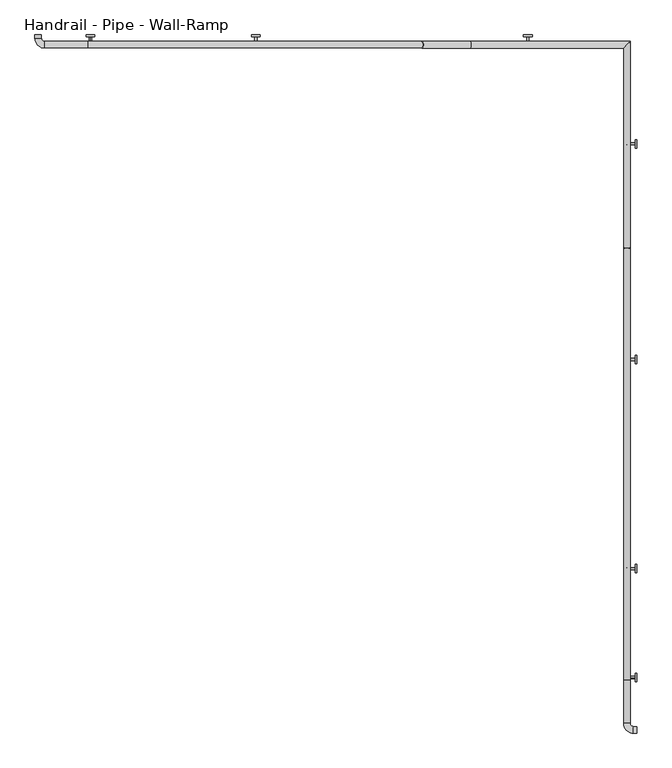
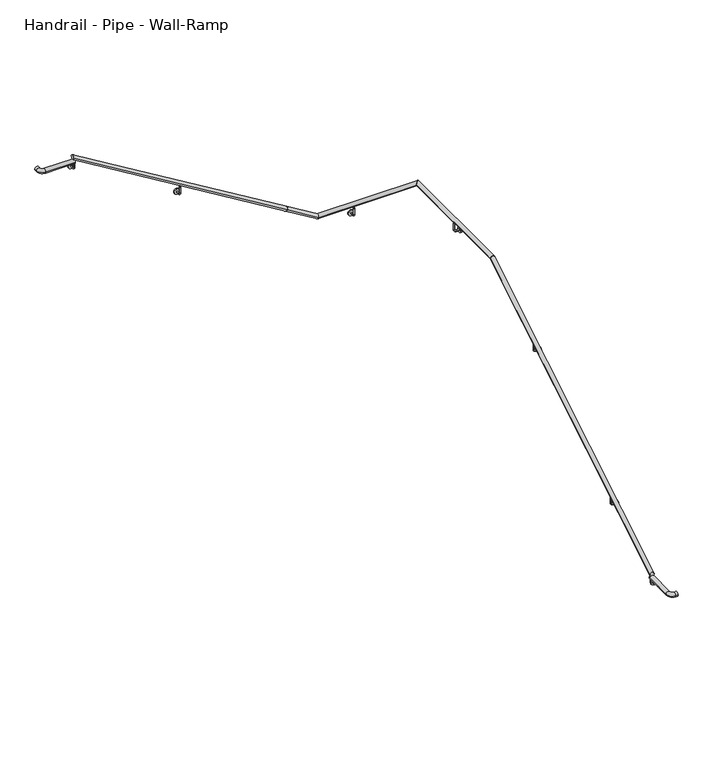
"""IFC4 building model written with IfcOpenShell, lengths in millimetres: railing geometry, Handrail - Pipe - Wall-Ramp."""

from ifc_helpers import new_model, si_unit, point, frame, frame_2d, origin, place, context, project, spatial, circle_curve, ellipse_curve, trimmed, segment, composite_curve, outline, extrude, source, transform, mapped, element, save
from ifc_brep_helpers import plane_surface, cylinder_surface, revolved_surface, advanced_brep


def handrail_pipe_wall_ramp_dae7b1af(model_context):
    return source(origin(), model_context, "Body", "SolidModel", [
        advanced_brep(
        [(7766.9853665, -3496.9167382, 1061.4577857), (7805.0853665, -3496.9167382, 1061.4577857), (7766.9853665, -976.9945847, 2588.6833333), (7805.0853665, -976.9945847, 2588.6833333)],
        [
            (0, 1, ellipse_curve(frame((7786.0353665, -3496.9167382, 1061.4577857), z_axis=(0.0, -1.0, 0.0), x_axis=(0.0, 0.0, -1.0)), 22.2755476, 19.05)),
            (1, 0, ellipse_curve(frame((7786.0353665, -3496.9167382, 1061.4577857), z_axis=(0.0, -1.0, 0.0), x_axis=(0.0, 0.0, -1.0)), 22.2755476, 19.05)),
            (2, 3, ellipse_curve(frame((7786.0353665, -976.9945847, 2588.6833333), z_axis=(0.0, 0.9631193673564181, 0.2690744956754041), x_axis=(0.0, 0.2690744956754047, -0.9631193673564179)), 19.7794797, 19.05)),
            (3, 2, ellipse_curve(frame((7786.0353665, -976.9945847, 2588.6833333), z_axis=(0.0, 0.9631193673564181, 0.2690744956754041), x_axis=(0.0, 0.2690744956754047, -0.9631193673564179)), 19.7794797, 19.05)),
            (0, 2),
            (3, 1),
        ],
        [
            plane_surface(frame((7786.0353665, -3496.9167382, 1083.7333333), z_axis=(0.0, -1.0, 0.0), x_axis=(0.0, 0.0, 1.0))),
            plane_surface(frame((7786.0353665, -982.3167382, 2607.7333333), z_axis=(0.0, 0.9631193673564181, 0.2690744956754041), x_axis=(1.0, 0.0, 0.0))),
            cylinder_surface(frame((7786.0353665, -3487.0430905, 1067.4418146), z_axis=(0.0, -0.8551978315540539, -0.5183017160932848), x_axis=(1.0, 0.0, 0.0)), 19.05),
        ],
        [
            (0, [[1, 2]]),
            (1, [[3, 4]]),
            (2, [[-1, 5, -4, 6]]),
            (2, [[-2, -6, -3, -5]]),
        ],
    ),
        advanced_brep(
        [(7766.9853665, -976.9945847, 2588.6833333), (7805.0853665, -976.9945847, 2588.6833333), (7766.9853665, 186.0832618, 2588.6833333), (7805.0853665, 224.1832618, 2588.6833333)],
        [
            (0, 1, ellipse_curve(frame((7786.0353665, -976.9945847, 2588.6833333), z_axis=(0.0, -0.9631193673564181, -0.2690744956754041), x_axis=(0.0, -0.26907449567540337, 0.9631193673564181)), 19.7794797, 19.05)),
            (1, 0, ellipse_curve(frame((7786.0353665, -976.9945847, 2588.6833333), z_axis=(0.0, -0.9631193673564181, -0.2690744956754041), x_axis=(0.0, -0.26907449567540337, 0.9631193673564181)), 19.7794797, 19.05)),
            (2, 3, ellipse_curve(frame((7786.0353665, 205.1332618, 2588.6833333), z_axis=(-0.7071067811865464, 0.7071067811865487, 0.0), x_axis=(-0.7071067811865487, -0.7071067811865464, 0.0)), 26.9407684, 19.05)),
            (3, 2, ellipse_curve(frame((7786.0353665, 205.1332618, 2588.6833333), z_axis=(-0.7071067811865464, 0.7071067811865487, 0.0), x_axis=(-0.7071067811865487, -0.7071067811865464, 0.0)), 26.9407684, 19.05)),
            (0, 2),
            (3, 1),
        ],
        [
            plane_surface(frame((7786.0353665, -982.3167382, 2607.7333333), z_axis=(0.0, -0.9631193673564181, -0.2690744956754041), x_axis=(1.0, 0.0, 0.0))),
            plane_surface(frame((7786.0353665, 205.1332618, 2607.7333333), z_axis=(-0.7071067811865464, 0.7071067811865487, 0.0), x_axis=(0.7071067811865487, 0.7071067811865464, 0.0))),
            cylinder_surface(frame((7786.0353665, -982.3167382, 2588.6833333), z_axis=(0.0, -1.0, 0.0), x_axis=(1.0, 0.0, 0.0)), 19.05),
        ],
        [
            (0, [[1, 2]]),
            (1, [[3, 4]]),
            (2, [[-1, 5, -4, 6]]),
            (2, [[-2, -6, -3, -5]]),
        ],
    ),
        advanced_brep(
        [(7766.9853665, 186.0832618, 2588.6833333), (7805.0853665, 224.1832618, 2588.6833333), (6872.6632129, 186.0832618, 2588.6833333), (6872.6632129, 224.1832618, 2588.6833333), (6588.7117188, 186.0832618, 2760.775148), (6588.7117188, 224.1832618, 2760.775148)],
        [
            (0, 1, ellipse_curve(frame((7786.0353665, 205.1332618, 2588.6833333), z_axis=(0.7071067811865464, -0.7071067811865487, 0.0), x_axis=(0.7071067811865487, 0.7071067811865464, 0.0)), 26.9407684, 19.05)),
            (1, 0, ellipse_curve(frame((7786.0353665, 205.1332618, 2588.6833333), z_axis=(0.7071067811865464, -0.7071067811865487, 0.0), x_axis=(0.7071067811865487, 0.7071067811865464, 0.0)), 26.9407684, 19.05)),
            (0, 2),
            (2, 3, ellipse_curve(frame((6872.6632129, 205.1332618, 2588.6833333), z_axis=(0.9631193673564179, 0.0, -0.2690744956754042), x_axis=(0.26907449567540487, 0.0, 0.9631193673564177)), 19.7794797, 19.05)),
            (3, 1),
            (3, 2, ellipse_curve(frame((6872.6632129, 205.1332618, 2588.6833333), z_axis=(0.9631193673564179, 0.0, -0.2690744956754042), x_axis=(0.26907449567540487, 0.0, 0.9631193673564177)), 19.7794797, 19.05)),
            (4, 5, circle_curve(frame((6588.7117188, 205.1332618, 2760.775148), z_axis=(-0.8551978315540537, 0.0, 0.5183017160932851), x_axis=(0.0, 1.0, 0.0)), 19.05)),
            (5, 4, circle_curve(frame((6588.7117188, 205.1332618, 2760.775148), z_axis=(-0.8551978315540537, 0.0, 0.5183017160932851), x_axis=(0.0, 1.0, 0.0)), 19.05)),
            (2, 4),
            (5, 3),
        ],
        [
            plane_surface(frame((7786.0353665, 205.1332618, 2607.7333333), z_axis=(0.7071067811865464, -0.7071067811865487, 0.0), x_axis=(0.7071067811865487, 0.7071067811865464, 0.0))),
            cylinder_surface(frame((7786.0353665, 205.1332618, 2588.6833333), z_axis=(1.0, 0.0, 0.0), x_axis=(0.0, 1.0, 0.0)), 19.05),
            plane_surface(frame((6598.5853665, 205.1332618, 2777.0666667), z_axis=(-0.8551978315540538, 0.0, 0.5183017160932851), x_axis=(0.5183017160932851, 0.0, 0.8551978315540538))),
            cylinder_surface(frame((6868.1117188, 205.1332618, 2591.4418146), z_axis=(0.8551978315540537, 0.0, -0.5183017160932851), x_axis=(0.0, 1.0, 0.0)), 19.05),
        ],
        [
            (0, [[1, 2]]),
            (1, [[-1, 3, 4, 5]]),
            (1, [[-2, -5, 6, -3]]),
            (2, [[7, 8]]),
            (3, [[-4, 9, -8, 10]]),
            (3, [[-6, -10, -7, -9]]),
        ],
    ),
        advanced_brep(
        [(6588.7117188, 186.0832618, 2760.775148), (6588.7117188, 224.1832618, 2760.775148), (4642.7853665, 186.0832618, 3940.1244524), (4642.7853665, 224.1832618, 3940.1244524)],
        [
            (0, 1, circle_curve(frame((6588.7117188, 205.1332618, 2760.775148), z_axis=(0.8551978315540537, 0.0, -0.5183017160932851), x_axis=(0.0, 1.0, 0.0)), 19.05)),
            (1, 0, circle_curve(frame((6588.7117188, 205.1332618, 2760.775148), z_axis=(0.8551978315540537, 0.0, -0.5183017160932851), x_axis=(0.0, 1.0, 0.0)), 19.05)),
            (2, 3, ellipse_curve(frame((4642.7853665, 205.1332618, 3940.1244524), z_axis=(-1.0, 0.0, 0.0), x_axis=(0.0, 0.0, -1.0)), 22.2755476, 19.05)),
            (3, 2, ellipse_curve(frame((4642.7853665, 205.1332618, 3940.1244524), z_axis=(-1.0, 0.0, 0.0), x_axis=(0.0, 0.0, -1.0)), 22.2755476, 19.05)),
            (0, 2),
            (3, 1),
        ],
        [
            plane_surface(frame((6598.5853665, 205.1332618, 2777.0666667), z_axis=(0.8551978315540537, 0.0, -0.5183017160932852), x_axis=(0.5183017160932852, 0.0, 0.8551978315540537))),
            plane_surface(frame((4642.7853665, 205.1332618, 3962.4), z_axis=(-1.0, 0.0, 0.0), x_axis=(0.0, -1.0, 0.0))),
            cylinder_surface(frame((6588.7117188, 205.1332618, 2760.775148), z_axis=(0.8551978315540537, 0.0, -0.5183017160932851), x_axis=(0.0, 1.0, 0.0)), 19.05),
        ],
        [
            (0, [[1, 2]]),
            (1, [[3, 4]]),
            (2, [[-1, 5, -4, 6]]),
            (2, [[-2, -6, -3, -5]]),
        ],
    ),
        advanced_brep(
        [(5627.0353665, 205.1332618, 3312.5833333), (5614.3353665, 205.1332618, 3312.5833333), (5627.0353665, 205.1332618, 3255.4333333), (5614.3353665, 205.1332618, 3255.4333333), (5614.3353665, 224.1832618, 3236.3833333), (5627.0353665, 224.1832618, 3236.3833333), (5627.0353665, 252.7582618, 3236.3833333), (5614.3353665, 252.7582618, 3236.3833333)],
        [
            (0, 1, circle_curve(frame((5620.6853665, 205.1332618, 3312.5833333), z_axis=(0.0, 0.0, 1.0), x_axis=(-1.0, 0.0, 0.0)), 6.35)),
            (1, 0, circle_curve(frame((5620.6853665, 205.1332618, 3312.5833333), z_axis=(0.0, 0.0, 1.0), x_axis=(-1.0, 0.0, 0.0)), 6.35)),
            (0, 2),
            (2, 3, circle_curve(frame((5620.6853665, 205.1332618, 3255.4333333), z_axis=(0.0, 0.0, 1.0), x_axis=(-1.0, 0.0, 0.0)), 6.35)),
            (3, 1),
            (3, 2, circle_curve(frame((5620.6853665, 205.1332618, 3255.4333333), z_axis=(0.0, 0.0, 1.0), x_axis=(-1.0, 0.0, 0.0)), 6.35)),
            (4, 3, circle_curve(frame((5614.3353665, 224.1832618, 3255.4333333), z_axis=(-1.0, 0.0, 0.0), x_axis=(0.0, -1.0, 0.0)), 19.05)),
            (2, 5, circle_curve(frame((5627.0353665, 224.1832618, 3255.4333333), z_axis=(1.0, 0.0, 0.0), x_axis=(0.0, -1.0, 0.0)), 19.05)),
            (5, 4, circle_curve(frame((5620.6853665, 224.1832618, 3236.3833333), z_axis=(0.0, -1.0, 0.0), x_axis=(-1.0, 0.0, 0.0)), 6.35)),
            (4, 5, circle_curve(frame((5620.6853665, 224.1832618, 3236.3833333), z_axis=(0.0, -1.0, 0.0), x_axis=(-1.0, 0.0, 0.0)), 6.35)),
            (6, 7, circle_curve(frame((5620.6853665, 252.7582618, 3236.3833333), z_axis=(0.0, 1.0, 0.0), x_axis=(-1.0, 0.0, 0.0)), 6.35)),
            (7, 6, circle_curve(frame((5620.6853665, 252.7582618, 3236.3833333), z_axis=(0.0, 1.0, 0.0), x_axis=(-1.0, 0.0, 0.0)), 6.35)),
            (5, 6),
            (7, 4),
        ],
        [
            plane_surface(frame((5614.3353665, 205.1332618, 3312.5833333), z_axis=(0.0, 0.0, 1.0), x_axis=(0.0, 1.0, 0.0))),
            cylinder_surface(frame((5620.6853665, 205.1332618, 3312.5833333), z_axis=(0.0, 0.0, 1.0), x_axis=(-1.0, 0.0, 0.0)), 6.35),
            revolved_surface(trimmed(ellipse_curve(frame((5620.6853665, 205.1332618, 3255.4333333), z_axis=(0.0, 0.0, 1.0), x_axis=(-1.0, 0.0, 0.0)), 6.35, 6.35), [point((5627.0353665, 205.1332618, 3255.4333333))], [point((5614.3353665, 205.1332618, 3255.4333333))], True, "CARTESIAN"), (5620.6853665, 224.1832618, 3255.4333333), (1.0, 0.0, 0.0)),
            revolved_surface(trimmed(ellipse_curve(frame((5620.6853665, 205.1332618, 3255.4333333), z_axis=(0.0, 0.0, 1.0), x_axis=(-1.0, 0.0, 0.0)), 6.35, 6.35), [point((5614.3353665, 205.1332618, 3255.4333333))], [point((5627.0353665, 205.1332618, 3255.4333333))], True, "CARTESIAN"), (5620.6853665, 224.1832618, 3255.4333333), (1.0, 0.0, 0.0)),
            plane_surface(frame((5620.6853665, 252.7582618, 3230.0333333), z_axis=(0.0, 1.0, 0.0), x_axis=(-1.0, 0.0, 0.0))),
            cylinder_surface(frame((5620.6853665, 224.1832618, 3236.3833333), z_axis=(0.0, -1.0, 0.0), x_axis=(-1.0, 0.0, 0.0)), 6.35),
        ],
        [
            (0, [[1, 2]]),
            (1, [[-1, 3, 4, 5]]),
            (1, [[-2, -5, 6, -3]]),
            (2, [[7, -4, 8, 9]]),
            (3, [[-8, -6, -7, 10]]),
            (4, [[11, 12]]),
            (5, [[-9, 13, -12, 14]]),
            (5, [[-10, -14, -11, -13]]),
        ],
    ),
        extrude(outline(composite_curve([segment(trimmed(circle_curve(frame_2d((3236.3833333, 5620.6853665)), 25.4), [point((3236.3833333, 5595.2853665))], [point((3236.3833333, 5646.0853665))], False, "CARTESIAN"), True, "CONTINUOUS"), segment(trimmed(circle_curve(frame_2d((3236.3833333, 5620.6853665)), 25.4), [point((3236.3833333, 5646.0853665))], [point((3236.3833333, 5595.2853665))], False, "CARTESIAN"), True, "CONTINUOUS")], self_intersect=False)), frame((0.0, 252.7582618, 0.0), z_axis=(0.0, 1.0, 0.0), x_axis=(0.0, 0.0, 1.0)), (0.0, 0.0, 1.0), 9.525),
        advanced_brep(
        [(7214.5353665, 205.1332618, 2550.5833333), (7201.8353665, 205.1332618, 2550.5833333), (7214.5353665, 205.1332618, 2493.4333333), (7201.8353665, 205.1332618, 2493.4333333), (7201.8353665, 224.1832618, 2474.3833333), (7214.5353665, 224.1832618, 2474.3833333), (7214.5353665, 252.7582618, 2474.3833333), (7201.8353665, 252.7582618, 2474.3833333)],
        [
            (0, 1, circle_curve(frame((7208.1853665, 205.1332618, 2550.5833333), z_axis=(0.0, 0.0, 1.0), x_axis=(-1.0, 0.0, 0.0)), 6.35)),
            (1, 0, circle_curve(frame((7208.1853665, 205.1332618, 2550.5833333), z_axis=(0.0, 0.0, 1.0), x_axis=(-1.0, 0.0, 0.0)), 6.35)),
            (0, 2),
            (2, 3, circle_curve(frame((7208.1853665, 205.1332618, 2493.4333333), z_axis=(0.0, 0.0, 1.0), x_axis=(-1.0, 0.0, 0.0)), 6.35)),
            (3, 1),
            (3, 2, circle_curve(frame((7208.1853665, 205.1332618, 2493.4333333), z_axis=(0.0, 0.0, 1.0), x_axis=(-1.0, 0.0, 0.0)), 6.35)),
            (4, 3, circle_curve(frame((7201.8353665, 224.1832618, 2493.4333333), z_axis=(-1.0, 0.0, 0.0), x_axis=(0.0, -1.0, 0.0)), 19.05)),
            (2, 5, circle_curve(frame((7214.5353665, 224.1832618, 2493.4333333), z_axis=(1.0, 0.0, 0.0), x_axis=(0.0, -1.0, 0.0)), 19.05)),
            (5, 4, circle_curve(frame((7208.1853665, 224.1832618, 2474.3833333), z_axis=(0.0, -1.0, 0.0), x_axis=(-1.0, 0.0, 0.0)), 6.35)),
            (4, 5, circle_curve(frame((7208.1853665, 224.1832618, 2474.3833333), z_axis=(0.0, -1.0, 0.0), x_axis=(-1.0, 0.0, 0.0)), 6.35)),
            (6, 7, circle_curve(frame((7208.1853665, 252.7582618, 2474.3833333), z_axis=(0.0, 1.0, 0.0), x_axis=(-1.0, 0.0, 0.0)), 6.35)),
            (7, 6, circle_curve(frame((7208.1853665, 252.7582618, 2474.3833333), z_axis=(0.0, 1.0, 0.0), x_axis=(-1.0, 0.0, 0.0)), 6.35)),
            (5, 6),
            (7, 4),
        ],
        [
            plane_surface(frame((7201.8353665, 205.1332618, 2550.5833333), z_axis=(0.0, 0.0, 1.0), x_axis=(0.0, 1.0, 0.0))),
            cylinder_surface(frame((7208.1853665, 205.1332618, 2550.5833333), z_axis=(0.0, 0.0, 1.0), x_axis=(-1.0, 0.0, 0.0)), 6.35),
            revolved_surface(trimmed(ellipse_curve(frame((7208.1853665, 205.1332618, 2493.4333333), z_axis=(0.0, 0.0, 1.0), x_axis=(-1.0, 0.0, 0.0)), 6.35, 6.35), [point((7214.5353665, 205.1332618, 2493.4333333))], [point((7201.8353665, 205.1332618, 2493.4333333))], True, "CARTESIAN"), (7208.1853665, 224.1832618, 2493.4333333), (1.0, 0.0, 0.0)),
            revolved_surface(trimmed(ellipse_curve(frame((7208.1853665, 205.1332618, 2493.4333333), z_axis=(0.0, 0.0, 1.0), x_axis=(-1.0, 0.0, 0.0)), 6.35, 6.35), [point((7201.8353665, 205.1332618, 2493.4333333))], [point((7214.5353665, 205.1332618, 2493.4333333))], True, "CARTESIAN"), (7208.1853665, 224.1832618, 2493.4333333), (1.0, 0.0, 0.0)),
            plane_surface(frame((7208.1853665, 252.7582618, 2468.0333333), z_axis=(0.0, 1.0, 0.0), x_axis=(-1.0, 0.0, 0.0))),
            cylinder_surface(frame((7208.1853665, 224.1832618, 2474.3833333), z_axis=(0.0, -1.0, 0.0), x_axis=(-1.0, 0.0, 0.0)), 6.35),
        ],
        [
            (0, [[1, 2]]),
            (1, [[-1, 3, 4, 5]]),
            (1, [[-2, -5, 6, -3]]),
            (2, [[7, -4, 8, 9]]),
            (3, [[-8, -6, -7, 10]]),
            (4, [[11, 12]]),
            (5, [[-9, 13, -12, 14]]),
            (5, [[-10, -14, -11, -13]]),
        ],
    ),
        extrude(outline(composite_curve([segment(trimmed(circle_curve(frame_2d((2474.3833333, 7208.1853665)), 25.4), [point((2474.3833333, 7182.7853665))], [point((2474.3833333, 7233.5853665))], False, "CARTESIAN"), True, "CONTINUOUS"), segment(trimmed(circle_curve(frame_2d((2474.3833333, 7208.1853665)), 25.4), [point((2474.3833333, 7233.5853665))], [point((2474.3833333, 7182.7853665))], False, "CARTESIAN"), True, "CONTINUOUS")], self_intersect=False)), frame((0.0, 252.7582618, 0.0), z_axis=(0.0, 1.0, 0.0), x_axis=(0.0, 0.0, 1.0)), (0.0, 0.0, 1.0), 9.525),
        advanced_brep(
        [(7786.0353665, -379.0667382, 2550.5833333), (7786.0353665, -366.3667382, 2550.5833333), (7786.0353665, -379.0667382, 2493.4333333), (7786.0353665, -366.3667382, 2493.4333333), (7805.0853665, -366.3667382, 2474.3833333), (7805.0853665, -379.0667382, 2474.3833333), (7833.6603665, -379.0667382, 2474.3833333), (7833.6603665, -366.3667382, 2474.3833333)],
        [
            (0, 1, circle_curve(frame((7786.0353665, -372.7167382, 2550.5833333), z_axis=(0.0, 0.0, 1.0), x_axis=(0.0, 1.0, 0.0)), 6.35)),
            (1, 0, circle_curve(frame((7786.0353665, -372.7167382, 2550.5833333), z_axis=(0.0, 0.0, 1.0), x_axis=(0.0, 1.0, 0.0)), 6.35)),
            (0, 2),
            (2, 3, circle_curve(frame((7786.0353665, -372.7167382, 2493.4333333), z_axis=(0.0, 0.0, 1.0), x_axis=(0.0, 1.0, 0.0)), 6.35)),
            (3, 1),
            (3, 2, circle_curve(frame((7786.0353665, -372.7167382, 2493.4333333), z_axis=(0.0, 0.0, 1.0), x_axis=(0.0, 1.0, 0.0)), 6.35)),
            (4, 3, circle_curve(frame((7805.0853665, -366.3667382, 2493.4333333), z_axis=(0.0, 1.0, 0.0), x_axis=(-1.0, 0.0, 0.0)), 19.05)),
            (2, 5, circle_curve(frame((7805.0853665, -379.0667382, 2493.4333333), z_axis=(0.0, -1.0, 0.0), x_axis=(-1.0, 0.0, 0.0)), 19.05)),
            (5, 4, circle_curve(frame((7805.0853665, -372.7167382, 2474.3833333), z_axis=(-1.0, 0.0, 0.0), x_axis=(0.0, 1.0, 0.0)), 6.35)),
            (4, 5, circle_curve(frame((7805.0853665, -372.7167382, 2474.3833333), z_axis=(-1.0, 0.0, 0.0), x_axis=(0.0, 1.0, 0.0)), 6.35)),
            (6, 7, circle_curve(frame((7833.6603665, -372.7167382, 2474.3833333), z_axis=(1.0, 0.0, 0.0), x_axis=(0.0, 1.0, 0.0)), 6.35)),
            (7, 6, circle_curve(frame((7833.6603665, -372.7167382, 2474.3833333), z_axis=(1.0, 0.0, 0.0), x_axis=(0.0, 1.0, 0.0)), 6.35)),
            (5, 6),
            (7, 4),
        ],
        [
            plane_surface(frame((7786.0353665, -366.3667382, 2550.5833333), z_axis=(0.0, 0.0, 1.0), x_axis=(1.0, 0.0, 0.0))),
            cylinder_surface(frame((7786.0353665, -372.7167382, 2550.5833333), z_axis=(0.0, 0.0, 1.0), x_axis=(0.0, 1.0, 0.0)), 6.35),
            revolved_surface(trimmed(ellipse_curve(frame((7786.0353665, -372.7167382, 2493.4333333), z_axis=(0.0, 0.0, 1.0), x_axis=(0.0, 1.0, 0.0)), 6.35, 6.35), [point((7786.0353665, -379.0667382, 2493.4333333))], [point((7786.0353665, -366.3667382, 2493.4333333))], True, "CARTESIAN"), (7805.0853665, -372.7167382, 2493.4333333), (0.0, -1.0, 0.0)),
            revolved_surface(trimmed(ellipse_curve(frame((7786.0353665, -372.7167382, 2493.4333333), z_axis=(0.0, 0.0, 1.0), x_axis=(0.0, 1.0, 0.0)), 6.35, 6.35), [point((7786.0353665, -366.3667382, 2493.4333333))], [point((7786.0353665, -379.0667382, 2493.4333333))], True, "CARTESIAN"), (7805.0853665, -372.7167382, 2493.4333333), (0.0, -1.0, 0.0)),
            plane_surface(frame((7833.6603665, -372.7167382, 2468.0333333), z_axis=(1.0, 0.0, 0.0), x_axis=(0.0, 1.0, 0.0))),
            cylinder_surface(frame((7805.0853665, -372.7167382, 2474.3833333), z_axis=(-1.0, 0.0, 0.0), x_axis=(0.0, 1.0, 0.0)), 6.35),
        ],
        [
            (0, [[1, 2]]),
            (1, [[-1, 3, 4, 5]]),
            (1, [[-2, -5, 6, -3]]),
            (2, [[7, -4, 8, 9]]),
            (3, [[-8, -6, -7, 10]]),
            (4, [[11, 12]]),
            (5, [[-9, 13, -12, 14]]),
            (5, [[-10, -14, -11, -13]]),
        ],
    ),
        extrude(outline(composite_curve([segment(trimmed(circle_curve(frame_2d((-372.7167382, 2474.3833333)), 25.4), [point((-347.3167382, 2474.3833333))], [point((-398.1167382, 2474.3833333))], False, "CARTESIAN"), True, "CONTINUOUS"), segment(trimmed(circle_curve(frame_2d((-372.7167382, 2474.3833333)), 25.4), [point((-398.1167382, 2474.3833333))], [point((-347.3167382, 2474.3833333))], False, "CARTESIAN"), True, "CONTINUOUS")], self_intersect=False)), frame((7833.6603665, 0.0, 0.0), z_axis=(1.0, 0.0, 0.0), x_axis=(0.0, 1.0, 0.0)), (0.0, 0.0, 1.0), 9.525),
        advanced_brep(
        [(7786.0353665, -1636.3667382, 2158.0378788), (7786.0353665, -1623.6667382, 2158.0378788), (7786.0353665, -1636.3667382, 2100.8878788), (7786.0353665, -1623.6667382, 2100.8878788), (7805.0853665, -1623.6667382, 2081.8378788), (7805.0853665, -1636.3667382, 2081.8378788), (7833.6603665, -1636.3667382, 2081.8378788), (7833.6603665, -1623.6667382, 2081.8378788)],
        [
            (0, 1, circle_curve(frame((7786.0353665, -1630.0167382, 2158.0378788), z_axis=(0.0, 0.0, 1.0), x_axis=(0.0, 1.0, 0.0)), 6.35)),
            (1, 0, circle_curve(frame((7786.0353665, -1630.0167382, 2158.0378788), z_axis=(0.0, 0.0, 1.0), x_axis=(0.0, 1.0, 0.0)), 6.35)),
            (0, 2),
            (2, 3, circle_curve(frame((7786.0353665, -1630.0167382, 2100.8878788), z_axis=(0.0, 0.0, 1.0), x_axis=(0.0, 1.0, 0.0)), 6.35)),
            (3, 1),
            (3, 2, circle_curve(frame((7786.0353665, -1630.0167382, 2100.8878788), z_axis=(0.0, 0.0, 1.0), x_axis=(0.0, 1.0, 0.0)), 6.35)),
            (4, 3, circle_curve(frame((7805.0853665, -1623.6667382, 2100.8878788), z_axis=(0.0, 1.0, 0.0), x_axis=(-1.0, 0.0, 0.0)), 19.05)),
            (2, 5, circle_curve(frame((7805.0853665, -1636.3667382, 2100.8878788), z_axis=(0.0, -1.0, 0.0), x_axis=(-1.0, 0.0, 0.0)), 19.05)),
            (5, 4, circle_curve(frame((7805.0853665, -1630.0167382, 2081.8378788), z_axis=(-1.0, 0.0, 0.0), x_axis=(0.0, 1.0, 0.0)), 6.35)),
            (4, 5, circle_curve(frame((7805.0853665, -1630.0167382, 2081.8378788), z_axis=(-1.0, 0.0, 0.0), x_axis=(0.0, 1.0, 0.0)), 6.35)),
            (6, 7, circle_curve(frame((7833.6603665, -1630.0167382, 2081.8378788), z_axis=(1.0, 0.0, 0.0), x_axis=(0.0, 1.0, 0.0)), 6.35)),
            (7, 6, circle_curve(frame((7833.6603665, -1630.0167382, 2081.8378788), z_axis=(1.0, 0.0, 0.0), x_axis=(0.0, 1.0, 0.0)), 6.35)),
            (5, 6),
            (7, 4),
        ],
        [
            plane_surface(frame((7786.0353665, -1623.6667382, 2158.0378788), z_axis=(0.0, 0.0, 1.0), x_axis=(1.0, 0.0, 0.0))),
            cylinder_surface(frame((7786.0353665, -1630.0167382, 2158.0378788), z_axis=(0.0, 0.0, 1.0), x_axis=(0.0, 1.0, 0.0)), 6.35),
            revolved_surface(trimmed(ellipse_curve(frame((7786.0353665, -1630.0167382, 2100.8878788), z_axis=(0.0, 0.0, 1.0), x_axis=(0.0, 1.0, 0.0)), 6.35, 6.35), [point((7786.0353665, -1636.3667382, 2100.8878788))], [point((7786.0353665, -1623.6667382, 2100.8878788))], True, "CARTESIAN"), (7805.0853665, -1630.0167382, 2100.8878788), (0.0, -1.0, 0.0)),
            revolved_surface(trimmed(ellipse_curve(frame((7786.0353665, -1630.0167382, 2100.8878788), z_axis=(0.0, 0.0, 1.0), x_axis=(0.0, 1.0, 0.0)), 6.35, 6.35), [point((7786.0353665, -1623.6667382, 2100.8878788))], [point((7786.0353665, -1636.3667382, 2100.8878788))], True, "CARTESIAN"), (7805.0853665, -1630.0167382, 2100.8878788), (0.0, -1.0, 0.0)),
            plane_surface(frame((7833.6603665, -1630.0167382, 2075.4878788), z_axis=(1.0, 0.0, 0.0), x_axis=(0.0, 1.0, 0.0))),
            cylinder_surface(frame((7805.0853665, -1630.0167382, 2081.8378788), z_axis=(-1.0, 0.0, 0.0), x_axis=(0.0, 1.0, 0.0)), 6.35),
        ],
        [
            (0, [[1, 2]]),
            (1, [[-1, 3, 4, 5]]),
            (1, [[-2, -5, 6, -3]]),
            (2, [[7, -4, 8, 9]]),
            (3, [[-8, -6, -7, 10]]),
            (4, [[11, 12]]),
            (5, [[-9, 13, -12, 14]]),
            (5, [[-10, -14, -11, -13]]),
        ],
    ),
        extrude(outline(composite_curve([segment(trimmed(circle_curve(frame_2d((-1630.0167382, 2081.8378788)), 25.4), [point((-1604.6167382, 2081.8378788))], [point((-1655.4167382, 2081.8378788))], False, "CARTESIAN"), True, "CONTINUOUS"), segment(trimmed(circle_curve(frame_2d((-1630.0167382, 2081.8378788)), 25.4), [point((-1655.4167382, 2081.8378788))], [point((-1604.6167382, 2081.8378788))], False, "CARTESIAN"), True, "CONTINUOUS")], self_intersect=False)), frame((7833.6603665, 0.0, 0.0), z_axis=(1.0, 0.0, 0.0), x_axis=(0.0, 1.0, 0.0)), (0.0, 0.0, 1.0), 9.525),
        advanced_brep(
        [(7786.0353665, -2855.5667382, 1419.1287879), (7786.0353665, -2842.8667382, 1419.1287879), (7786.0353665, -2855.5667382, 1361.9787879), (7786.0353665, -2842.8667382, 1361.9787879), (7805.0853665, -2842.8667382, 1342.9287879), (7805.0853665, -2855.5667382, 1342.9287879), (7833.6603665, -2855.5667382, 1342.9287879), (7833.6603665, -2842.8667382, 1342.9287879)],
        [
            (0, 1, circle_curve(frame((7786.0353665, -2849.2167382, 1419.1287879), z_axis=(0.0, 0.0, 1.0), x_axis=(0.0, 1.0, 0.0)), 6.35)),
            (1, 0, circle_curve(frame((7786.0353665, -2849.2167382, 1419.1287879), z_axis=(0.0, 0.0, 1.0), x_axis=(0.0, 1.0, 0.0)), 6.35)),
            (0, 2),
            (2, 3, circle_curve(frame((7786.0353665, -2849.2167382, 1361.9787879), z_axis=(0.0, 0.0, 1.0), x_axis=(0.0, 1.0, 0.0)), 6.35)),
            (3, 1),
            (3, 2, circle_curve(frame((7786.0353665, -2849.2167382, 1361.9787879), z_axis=(0.0, 0.0, 1.0), x_axis=(0.0, 1.0, 0.0)), 6.35)),
            (4, 3, circle_curve(frame((7805.0853665, -2842.8667382, 1361.9787879), z_axis=(0.0, 1.0, 0.0), x_axis=(-1.0, 0.0, 0.0)), 19.05)),
            (2, 5, circle_curve(frame((7805.0853665, -2855.5667382, 1361.9787879), z_axis=(0.0, -1.0, 0.0), x_axis=(-1.0, 0.0, 0.0)), 19.05)),
            (5, 4, circle_curve(frame((7805.0853665, -2849.2167382, 1342.9287879), z_axis=(-1.0, 0.0, 0.0), x_axis=(0.0, 1.0, 0.0)), 6.35)),
            (4, 5, circle_curve(frame((7805.0853665, -2849.2167382, 1342.9287879), z_axis=(-1.0, 0.0, 0.0), x_axis=(0.0, 1.0, 0.0)), 6.35)),
            (6, 7, circle_curve(frame((7833.6603665, -2849.2167382, 1342.9287879), z_axis=(1.0, 0.0, 0.0), x_axis=(0.0, 1.0, 0.0)), 6.35)),
            (7, 6, circle_curve(frame((7833.6603665, -2849.2167382, 1342.9287879), z_axis=(1.0, 0.0, 0.0), x_axis=(0.0, 1.0, 0.0)), 6.35)),
            (5, 6),
            (7, 4),
        ],
        [
            plane_surface(frame((7786.0353665, -2842.8667382, 1419.1287879), z_axis=(0.0, 0.0, 1.0), x_axis=(1.0, 0.0, 0.0))),
            cylinder_surface(frame((7786.0353665, -2849.2167382, 1419.1287879), z_axis=(0.0, 0.0, 1.0), x_axis=(0.0, 1.0, 0.0)), 6.35),
            revolved_surface(trimmed(ellipse_curve(frame((7786.0353665, -2849.2167382, 1361.9787879), z_axis=(0.0, 0.0, 1.0), x_axis=(0.0, 1.0, 0.0)), 6.35, 6.35), [point((7786.0353665, -2855.5667382, 1361.9787879))], [point((7786.0353665, -2842.8667382, 1361.9787879))], True, "CARTESIAN"), (7805.0853665, -2849.2167382, 1361.9787879), (0.0, -1.0, 0.0)),
            revolved_surface(trimmed(ellipse_curve(frame((7786.0353665, -2849.2167382, 1361.9787879), z_axis=(0.0, 0.0, 1.0), x_axis=(0.0, 1.0, 0.0)), 6.35, 6.35), [point((7786.0353665, -2842.8667382, 1361.9787879))], [point((7786.0353665, -2855.5667382, 1361.9787879))], True, "CARTESIAN"), (7805.0853665, -2849.2167382, 1361.9787879), (0.0, -1.0, 0.0)),
            plane_surface(frame((7833.6603665, -2849.2167382, 1336.5787879), z_axis=(1.0, 0.0, 0.0), x_axis=(0.0, 1.0, 0.0))),
            cylinder_surface(frame((7805.0853665, -2849.2167382, 1342.9287879), z_axis=(-1.0, 0.0, 0.0), x_axis=(0.0, 1.0, 0.0)), 6.35),
        ],
        [
            (0, [[1, 2]]),
            (1, [[-1, 3, 4, 5]]),
            (1, [[-2, -5, 6, -3]]),
            (2, [[7, -4, 8, 9]]),
            (3, [[-8, -6, -7, 10]]),
            (4, [[11, 12]]),
            (5, [[-9, 13, -12, 14]]),
            (5, [[-10, -14, -11, -13]]),
        ],
    ),
        extrude(outline(composite_curve([segment(trimmed(circle_curve(frame_2d((-2849.2167382, 1342.9287879)), 25.4), [point((-2823.8167382, 1342.9287879))], [point((-2874.6167382, 1342.9287879))], False, "CARTESIAN"), True, "CONTINUOUS"), segment(trimmed(circle_curve(frame_2d((-2849.2167382, 1342.9287879)), 25.4), [point((-2874.6167382, 1342.9287879))], [point((-2823.8167382, 1342.9287879))], False, "CARTESIAN"), True, "CONTINUOUS")], self_intersect=False)), frame((7833.6603665, 0.0, 0.0), z_axis=(1.0, 0.0, 0.0), x_axis=(0.0, 1.0, 0.0)), (0.0, 0.0, 1.0), 9.525),
        advanced_brep(
        [(4655.4853665, 224.1832618, 3897.5530303), (4655.4853665, 186.0832618, 3897.5530303), (4388.7853665, 224.1832618, 3897.5530303), (4388.7853665, 186.0832618, 3897.5530303), (4369.7353665, 262.2832618, 3897.5530303), (4331.6353665, 262.2832618, 3897.5530303), (4331.6353665, 243.2332618, 3897.5530303), (4369.7353665, 243.2332618, 3897.5530303)],
        [
            (0, 1, circle_curve(frame((4655.4853665, 205.1332618, 3897.5530303), z_axis=(1.0, 0.0, 0.0), x_axis=(0.0, -1.0, 0.0)), 19.05)),
            (1, 0, circle_curve(frame((4655.4853665, 205.1332618, 3897.5530303), z_axis=(1.0, 0.0, 0.0), x_axis=(0.0, -1.0, 0.0)), 19.05)),
            (0, 2),
            (2, 3, circle_curve(frame((4388.7853665, 205.1332618, 3897.5530303), z_axis=(1.0, 0.0, 0.0), x_axis=(0.0, -1.0, 0.0)), 19.05)),
            (3, 1),
            (3, 2, circle_curve(frame((4388.7853665, 205.1332618, 3897.5530303), z_axis=(1.0, 0.0, 0.0), x_axis=(0.0, -1.0, 0.0)), 19.05)),
            (4, 5, circle_curve(frame((4350.6853665, 262.2832618, 3897.5530303), z_axis=(0.0, 1.0, 0.0), x_axis=(-1.0, 0.0, 0.0)), 19.05)),
            (5, 4, circle_curve(frame((4350.6853665, 262.2832618, 3897.5530303), z_axis=(0.0, 1.0, 0.0), x_axis=(-1.0, 0.0, 0.0)), 19.05)),
            (6, 7, circle_curve(frame((4350.6853665, 243.2332618, 3897.5530303), z_axis=(0.0, 1.0, 0.0), x_axis=(-1.0, 0.0, 0.0)), 19.05)),
            (7, 4),
            (5, 6),
            (7, 6, circle_curve(frame((4350.6853665, 243.2332618, 3897.5530303), z_axis=(0.0, 1.0, 0.0), x_axis=(-1.0, 0.0, 0.0)), 19.05)),
            (6, 3, circle_curve(frame((4388.7853665, 243.2332618, 3897.5530303), z_axis=(0.0, 0.0, 1.0), x_axis=(0.0, -1.0, 0.0)), 57.15)),
            (2, 7, circle_curve(frame((4388.7853665, 243.2332618, 3897.5530303), z_axis=(0.0, 0.0, -1.0), x_axis=(0.0, -1.0, 0.0)), 19.05)),
        ],
        [
            plane_surface(frame((4655.4853665, 205.1332618, 3897.5530303), z_axis=(1.0, 0.0, 0.0), x_axis=(0.0, 0.0, 1.0))),
            cylinder_surface(frame((4655.4853665, 205.1332618, 3897.5530303), z_axis=(1.0, 0.0, 0.0), x_axis=(0.0, -1.0, 0.0)), 19.05),
            plane_surface(frame((4350.6853665, 262.2832618, 3897.5530303), z_axis=(0.0, 1.0, 0.0), x_axis=(0.0, 0.0, 1.0))),
            cylinder_surface(frame((4350.6853665, 243.2332618, 3897.5530303), z_axis=(0.0, -1.0, 0.0), x_axis=(-1.0, 0.0, 0.0)), 19.05),
            revolved_surface(trimmed(ellipse_curve(frame((4388.7853665, 205.1332618, 3897.5530303), z_axis=(1.0, 0.0, 0.0), x_axis=(0.0, -1.0, 0.0)), 19.05, 19.05), [point((4388.7853665, 224.1832618, 3897.5530303))], [point((4388.7853665, 186.0832618, 3897.5530303))], True, "CARTESIAN"), (4388.7853665, 243.2332618, 3897.5530303), (0.0, 0.0, -1.0)),
            revolved_surface(trimmed(ellipse_curve(frame((4388.7853665, 205.1332618, 3897.5530303), z_axis=(1.0, 0.0, 0.0), x_axis=(0.0, -1.0, 0.0)), 19.05, 19.05), [point((4388.7853665, 186.0832618, 3897.5530303))], [point((4388.7853665, 224.1832618, 3897.5530303))], True, "CARTESIAN"), (4388.7853665, 243.2332618, 3897.5530303), (0.0, 0.0, -1.0)),
        ],
        [
            (0, [[1, 2]]),
            (1, [[-1, 3, 4, 5]]),
            (1, [[-2, -5, 6, -3]]),
            (2, [[7, 8]]),
            (3, [[9, 10, -8, 11]]),
            (3, [[12, -11, -7, -10]]),
            (4, [[13, -4, 14, -9]]),
            (5, [[-14, -6, -13, -12]]),
        ],
    ),
        advanced_brep(
        [(4655.4853665, 252.7582618, 3815.0030303), (4655.4853665, 252.7582618, 3827.7030303), (4655.4853665, 224.1832618, 3815.0030303), (4655.4853665, 224.1832618, 3827.7030303), (4655.4853665, 198.7832618, 3897.5530303), (4655.4853665, 211.4832618, 3897.5530303), (4655.4853665, 211.4832618, 3840.4030303), (4655.4853665, 198.7832618, 3840.4030303)],
        [
            (0, 1, circle_curve(frame((4655.4853665, 252.7582618, 3821.3530303), z_axis=(0.0, 1.0, 0.0), x_axis=(0.0, 0.0, 1.0)), 6.35)),
            (1, 0, circle_curve(frame((4655.4853665, 252.7582618, 3821.3530303), z_axis=(0.0, 1.0, 0.0), x_axis=(0.0, 0.0, 1.0)), 6.35)),
            (0, 2),
            (2, 3, circle_curve(frame((4655.4853665, 224.1832618, 3821.3530303), z_axis=(0.0, 1.0, 0.0), x_axis=(0.0, 0.0, 1.0)), 6.35)),
            (3, 1),
            (3, 2, circle_curve(frame((4655.4853665, 224.1832618, 3821.3530303), z_axis=(0.0, 1.0, 0.0), x_axis=(0.0, 0.0, 1.0)), 6.35)),
            (4, 5, circle_curve(frame((4655.4853665, 205.1332618, 3897.5530303), z_axis=(0.0, 0.0, 1.0), x_axis=(0.0, 1.0, 0.0)), 6.35)),
            (5, 4, circle_curve(frame((4655.4853665, 205.1332618, 3897.5530303), z_axis=(0.0, 0.0, 1.0), x_axis=(0.0, 1.0, 0.0)), 6.35)),
            (6, 7, circle_curve(frame((4655.4853665, 205.1332618, 3840.4030303), z_axis=(0.0, 0.0, 1.0), x_axis=(0.0, 1.0, 0.0)), 6.35)),
            (7, 4),
            (5, 6),
            (7, 6, circle_curve(frame((4655.4853665, 205.1332618, 3840.4030303), z_axis=(0.0, 0.0, 1.0), x_axis=(0.0, 1.0, 0.0)), 6.35)),
            (6, 3, circle_curve(frame((4655.4853665, 224.1832618, 3840.4030303), z_axis=(1.0, 0.0, 0.0), x_axis=(0.0, 0.0, -1.0)), 12.7)),
            (2, 7, circle_curve(frame((4655.4853665, 224.1832618, 3840.4030303), z_axis=(-1.0, 0.0, 0.0), x_axis=(0.0, 0.0, -1.0)), 25.4)),
        ],
        [
            plane_surface(frame((4655.4853665, 252.7582618, 3821.3530303), z_axis=(0.0, 1.0, 0.0), x_axis=(-1.0, 0.0, 0.0))),
            cylinder_surface(frame((4655.4853665, 252.7582618, 3821.3530303), z_axis=(0.0, 1.0, 0.0), x_axis=(0.0, 0.0, 1.0)), 6.35),
            plane_surface(frame((4655.4853665, 205.1332618, 3897.5530303), z_axis=(0.0, 0.0, 1.0), x_axis=(-1.0, 0.0, 0.0))),
            cylinder_surface(frame((4655.4853665, 205.1332618, 3840.4030303), z_axis=(0.0, 0.0, -1.0), x_axis=(0.0, 1.0, 0.0)), 6.35),
            revolved_surface(trimmed(ellipse_curve(frame((4655.4853665, 224.1832618, 3821.3530303), z_axis=(0.0, 1.0, 0.0), x_axis=(0.0, 0.0, 1.0)), 6.35, 6.35), [point((4655.4853665, 224.1832618, 3815.0030303))], [point((4655.4853665, 224.1832618, 3827.7030303))], True, "CARTESIAN"), (4655.4853665, 224.1832618, 3840.4030303), (-1.0, 0.0, 0.0)),
            revolved_surface(trimmed(ellipse_curve(frame((4655.4853665, 224.1832618, 3821.3530303), z_axis=(0.0, 1.0, 0.0), x_axis=(0.0, 0.0, 1.0)), 6.35, 6.35), [point((4655.4853665, 224.1832618, 3827.7030303))], [point((4655.4853665, 224.1832618, 3815.0030303))], True, "CARTESIAN"), (4655.4853665, 224.1832618, 3840.4030303), (-1.0, 0.0, 0.0)),
        ],
        [
            (0, [[1, 2]]),
            (1, [[-1, 3, 4, 5]]),
            (1, [[-2, -5, 6, -3]]),
            (2, [[7, 8]]),
            (3, [[9, 10, -8, 11]]),
            (3, [[12, -11, -7, -10]]),
            (4, [[13, -4, 14, -9]]),
            (5, [[-14, -6, -13, -12]]),
        ],
    ),
        extrude(outline(composite_curve([segment(trimmed(circle_curve(frame_2d((3821.3530303, 4655.4853665)), 25.4), [point((3821.3530303, 4630.0853665))], [point((3821.3530303, 4680.8853665))], False, "CARTESIAN"), True, "CONTINUOUS"), segment(trimmed(circle_curve(frame_2d((3821.3530303, 4655.4853665)), 25.4), [point((3821.3530303, 4680.8853665))], [point((3821.3530303, 4630.0853665))], False, "CARTESIAN"), True, "CONTINUOUS")], self_intersect=False)), frame((0.0, 252.7582618, 0.0), z_axis=(0.0, 1.0, 0.0), x_axis=(0.0, 0.0, 1.0)), (0.0, 0.0, 1.0), 9.525),
        advanced_brep(
        [(7843.1853665, -3769.9667382, 1034.280303), (7843.1853665, -3808.0667382, 1034.280303), (7824.1353665, -3769.9667382, 1034.280303), (7824.1353665, -3808.0667382, 1034.280303), (7766.9853665, -3750.9167382, 1034.280303), (7805.0853665, -3750.9167382, 1034.280303), (7805.0853665, -3484.2167382, 1034.280303), (7766.9853665, -3484.2167382, 1034.280303)],
        [
            (0, 1, circle_curve(frame((7843.1853665, -3789.0167382, 1034.280303), z_axis=(1.0, 0.0, 0.0), x_axis=(0.0, -1.0, 0.0)), 19.05)),
            (1, 0, circle_curve(frame((7843.1853665, -3789.0167382, 1034.280303), z_axis=(1.0, 0.0, 0.0), x_axis=(0.0, -1.0, 0.0)), 19.05)),
            (0, 2),
            (2, 3, circle_curve(frame((7824.1353665, -3789.0167382, 1034.280303), z_axis=(1.0, 0.0, 0.0), x_axis=(0.0, -1.0, 0.0)), 19.05)),
            (3, 1),
            (3, 2, circle_curve(frame((7824.1353665, -3789.0167382, 1034.280303), z_axis=(1.0, 0.0, 0.0), x_axis=(0.0, -1.0, 0.0)), 19.05)),
            (4, 3, circle_curve(frame((7824.1353665, -3750.9167382, 1034.280303), z_axis=(0.0, 0.0, 1.0), x_axis=(0.0, -1.0, 0.0)), 57.15)),
            (2, 5, circle_curve(frame((7824.1353665, -3750.9167382, 1034.280303), z_axis=(0.0, 0.0, -1.0), x_axis=(0.0, -1.0, 0.0)), 19.05)),
            (5, 4, circle_curve(frame((7786.0353665, -3750.9167382, 1034.280303), z_axis=(0.0, -1.0, 0.0), x_axis=(-1.0, 0.0, 0.0)), 19.05)),
            (4, 5, circle_curve(frame((7786.0353665, -3750.9167382, 1034.280303), z_axis=(0.0, -1.0, 0.0), x_axis=(-1.0, 0.0, 0.0)), 19.05)),
            (6, 7, circle_curve(frame((7786.0353665, -3484.2167382, 1034.280303), z_axis=(0.0, 1.0, 0.0), x_axis=(-1.0, 0.0, 0.0)), 19.05)),
            (7, 6, circle_curve(frame((7786.0353665, -3484.2167382, 1034.280303), z_axis=(0.0, 1.0, 0.0), x_axis=(-1.0, 0.0, 0.0)), 19.05)),
            (5, 6),
            (7, 4),
        ],
        [
            plane_surface(frame((7843.1853665, -3789.0167382, 1034.280303), z_axis=(1.0, 0.0, 0.0), x_axis=(0.0, 0.0, 1.0))),
            cylinder_surface(frame((7843.1853665, -3789.0167382, 1034.280303), z_axis=(1.0, 0.0, 0.0), x_axis=(0.0, -1.0, 0.0)), 19.05),
            revolved_surface(trimmed(ellipse_curve(frame((7824.1353665, -3789.0167382, 1034.280303), z_axis=(1.0, 0.0, 0.0), x_axis=(0.0, -1.0, 0.0)), 19.05, 19.05), [point((7824.1353665, -3769.9667382, 1034.280303))], [point((7824.1353665, -3808.0667382, 1034.280303))], True, "CARTESIAN"), (7824.1353665, -3750.9167382, 1034.280303), (0.0, 0.0, -1.0)),
            revolved_surface(trimmed(ellipse_curve(frame((7824.1353665, -3789.0167382, 1034.280303), z_axis=(1.0, 0.0, 0.0), x_axis=(0.0, -1.0, 0.0)), 19.05, 19.05), [point((7824.1353665, -3808.0667382, 1034.280303))], [point((7824.1353665, -3769.9667382, 1034.280303))], True, "CARTESIAN"), (7824.1353665, -3750.9167382, 1034.280303), (0.0, 0.0, -1.0)),
            plane_surface(frame((7786.0353665, -3484.2167382, 1034.280303), z_axis=(0.0, 1.0, 0.0), x_axis=(0.0, 0.0, 1.0))),
            cylinder_surface(frame((7786.0353665, -3750.9167382, 1034.280303), z_axis=(0.0, -1.0, 0.0), x_axis=(-1.0, 0.0, 0.0)), 19.05),
        ],
        [
            (0, [[1, 2]]),
            (1, [[-1, 3, 4, 5]]),
            (1, [[-2, -5, 6, -3]]),
            (2, [[7, -4, 8, 9]]),
            (3, [[-8, -6, -7, 10]]),
            (4, [[11, 12]]),
            (5, [[-9, 13, -12, 14]]),
            (5, [[-10, -14, -11, -13]]),
        ],
    ),
        advanced_brep(
        [(7833.6603665, -3484.2167382, 951.730303), (7833.6603665, -3484.2167382, 964.430303), (7805.0853665, -3484.2167382, 951.730303), (7805.0853665, -3484.2167382, 964.430303), (7792.3853665, -3484.2167382, 977.130303), (7779.6853665, -3484.2167382, 977.130303), (7779.6853665, -3484.2167382, 1034.280303), (7792.3853665, -3484.2167382, 1034.280303)],
        [
            (0, 1, circle_curve(frame((7833.6603665, -3484.2167382, 958.080303), z_axis=(1.0, 0.0, 0.0), x_axis=(0.0, 0.0, 1.0)), 6.35)),
            (1, 0, circle_curve(frame((7833.6603665, -3484.2167382, 958.080303), z_axis=(1.0, 0.0, 0.0), x_axis=(0.0, 0.0, 1.0)), 6.35)),
            (0, 2),
            (2, 3, circle_curve(frame((7805.0853665, -3484.2167382, 958.080303), z_axis=(1.0, 0.0, 0.0), x_axis=(0.0, 0.0, 1.0)), 6.35)),
            (3, 1),
            (3, 2, circle_curve(frame((7805.0853665, -3484.2167382, 958.080303), z_axis=(1.0, 0.0, 0.0), x_axis=(0.0, 0.0, 1.0)), 6.35)),
            (4, 3, circle_curve(frame((7805.0853665, -3484.2167382, 977.130303), z_axis=(0.0, -1.0, 0.0), x_axis=(0.0, 0.0, -1.0)), 12.7)),
            (2, 5, circle_curve(frame((7805.0853665, -3484.2167382, 977.130303), z_axis=(0.0, 1.0, 0.0), x_axis=(0.0, 0.0, -1.0)), 25.4)),
            (5, 4, circle_curve(frame((7786.0353665, -3484.2167382, 977.130303), z_axis=(0.0, 0.0, -1.0), x_axis=(1.0, 0.0, 0.0)), 6.35)),
            (4, 5, circle_curve(frame((7786.0353665, -3484.2167382, 977.130303), z_axis=(0.0, 0.0, -1.0), x_axis=(1.0, 0.0, 0.0)), 6.35)),
            (6, 7, circle_curve(frame((7786.0353665, -3484.2167382, 1034.280303), z_axis=(0.0, 0.0, 1.0), x_axis=(1.0, 0.0, 0.0)), 6.35)),
            (7, 6, circle_curve(frame((7786.0353665, -3484.2167382, 1034.280303), z_axis=(0.0, 0.0, 1.0), x_axis=(1.0, 0.0, 0.0)), 6.35)),
            (5, 6),
            (7, 4),
        ],
        [
            plane_surface(frame((7833.6603665, -3484.2167382, 958.080303), z_axis=(1.0, 0.0, 0.0), x_axis=(0.0, 1.0, 0.0))),
            cylinder_surface(frame((7833.6603665, -3484.2167382, 958.080303), z_axis=(1.0, 0.0, 0.0), x_axis=(0.0, 0.0, 1.0)), 6.35),
            revolved_surface(trimmed(ellipse_curve(frame((7805.0853665, -3484.2167382, 958.080303), z_axis=(1.0, 0.0, 0.0), x_axis=(0.0, 0.0, 1.0)), 6.35, 6.35), [point((7805.0853665, -3484.2167382, 951.730303))], [point((7805.0853665, -3484.2167382, 964.430303))], True, "CARTESIAN"), (7805.0853665, -3484.2167382, 977.130303), (0.0, 1.0, 0.0)),
            revolved_surface(trimmed(ellipse_curve(frame((7805.0853665, -3484.2167382, 958.080303), z_axis=(1.0, 0.0, 0.0), x_axis=(0.0, 0.0, 1.0)), 6.35, 6.35), [point((7805.0853665, -3484.2167382, 964.430303))], [point((7805.0853665, -3484.2167382, 951.730303))], True, "CARTESIAN"), (7805.0853665, -3484.2167382, 977.130303), (0.0, 1.0, 0.0)),
            plane_surface(frame((7786.0353665, -3484.2167382, 1034.280303), z_axis=(0.0, 0.0, 1.0), x_axis=(0.0, 1.0, 0.0))),
            cylinder_surface(frame((7786.0353665, -3484.2167382, 977.130303), z_axis=(0.0, 0.0, -1.0), x_axis=(1.0, 0.0, 0.0)), 6.35),
        ],
        [
            (0, [[1, 2]]),
            (1, [[-1, 3, 4, 5]]),
            (1, [[-2, -5, 6, -3]]),
            (2, [[7, -4, 8, 9]]),
            (3, [[-8, -6, -7, 10]]),
            (4, [[11, 12]]),
            (5, [[-9, 13, -12, 14]]),
            (5, [[-10, -14, -11, -13]]),
        ],
    ),
        extrude(outline(composite_curve([segment(trimmed(circle_curve(frame_2d((-3484.2167382, 958.080303)), 25.4), [point((-3458.8167382, 958.080303))], [point((-3509.6167382, 958.080303))], False, "CARTESIAN"), True, "CONTINUOUS"), segment(trimmed(circle_curve(frame_2d((-3484.2167382, 958.080303)), 25.4), [point((-3509.6167382, 958.080303))], [point((-3458.8167382, 958.080303))], False, "CARTESIAN"), True, "CONTINUOUS")], self_intersect=False)), frame((7833.6603665, 0.0, 0.0), z_axis=(1.0, 0.0, 0.0), x_axis=(0.0, 1.0, 0.0)), (0.0, 0.0, 1.0), 9.525),
    ])


if __name__ == "__main__":
    model = new_model("IFC4")
    model_context = context("Model", 3, world=origin())
    ifc_project = project(units=[si_unit("LENGTHUNIT", "METRE", prefix="MILLI")], contexts=[model_context])
    site = spatial("IfcSite", under=ifc_project)
    building = spatial("IfcBuilding", under=site)
    placement = place(None, origin())
    handrail_pipe_wall_ramp_shape = handrail_pipe_wall_ramp_dae7b1af(model_context)
    element("IfcRailing", 1, ObjectType="Handrail - Pipe - Wall-Ramp", at=placement, inside=building, context=model_context, shape_type="MappedRepresentation", body=[
        mapped(handrail_pipe_wall_ramp_shape, transform((0.0, 0.0, 0.0), x_axis=(1.0, 0.0, 0.0), y_axis=(0.0, 1.0, 0.0), z_axis=(0.0, 0.0, 1.0))),
    ])
    save(model, "model.ifc")
